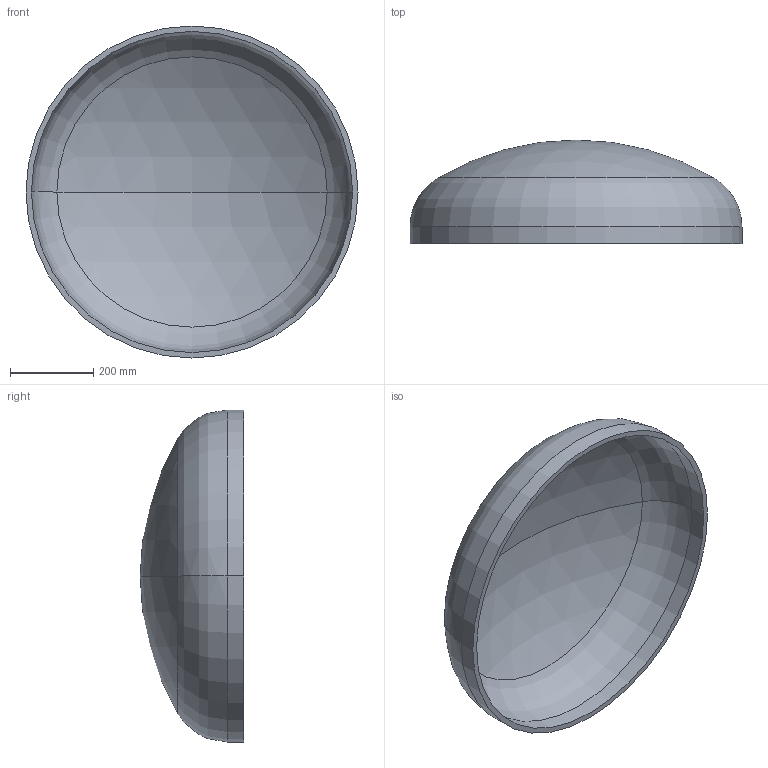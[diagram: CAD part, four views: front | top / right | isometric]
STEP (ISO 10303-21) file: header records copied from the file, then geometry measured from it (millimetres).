
FILE_DESCRIPTION (( 'STEP AP203' ), '1' );
FILE_NAME ('DIN 28013 Korbbogenform_-_Boden DIN 28013 - 800 x 40 - I - s=13.step', '2016-07-01T08:12:49', ( '' ), ( '' ), 'SwSTEP 2.0', 'SolidWorks 2013', '' );
FILE_SCHEMA (( 'CONFIG_CONTROL_DESIGN' ));
Length unit declared in the file: millimetre
Products named in the file (1): DIN 28013 Korbbogenform_-_Boden DIN 28013 - 800 x 40 - I - s=13
Bounding box: 800 x 249.63 x 800 mm (x, y, z)
Volume: 10169443.9 mm3; surface area: 1597024.9 mm2
Topology: 1 solids, 1 shells, 13 faces, 24 edges, 14 vertices
Faces by surface type: torus 4, cylinder 4, sphere 4, plane 1
Entity records: 407 total; most frequent: DIRECTION 72, CARTESIAN_POINT 52, ORIENTED_EDGE 48, AXIS2_PLACEMENT_3D 34, EDGE_CURVE 24, CIRCLE 20, VERTEX_POINT 14, EDGE_LOOP 14
